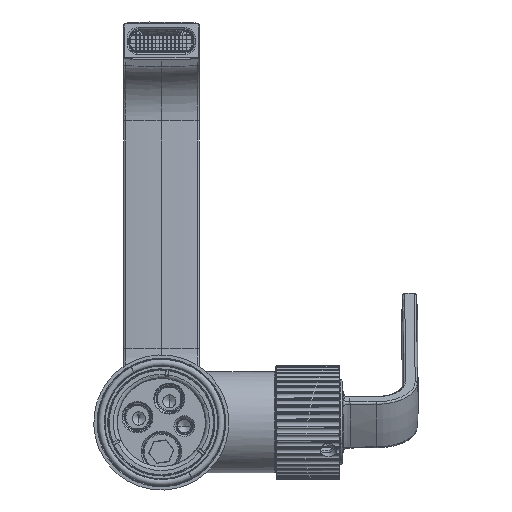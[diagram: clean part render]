
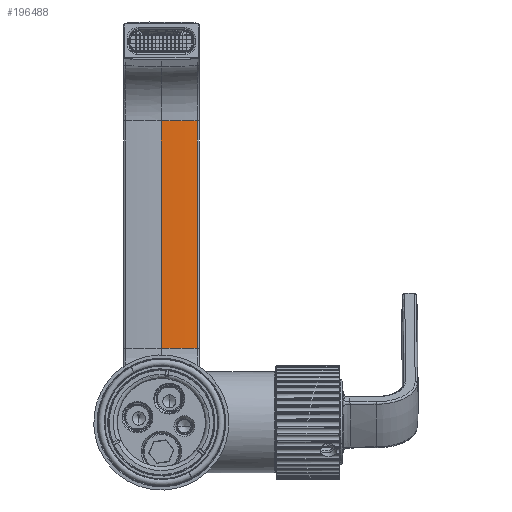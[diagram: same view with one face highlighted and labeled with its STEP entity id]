
A CAD part, front view. The second image highlights one B-rep face of the part: STEP entity #196488.
In plain terms, the highlighted cylindrical face has radius 203.312 mm (diameter 406.625 mm), a partial arc.
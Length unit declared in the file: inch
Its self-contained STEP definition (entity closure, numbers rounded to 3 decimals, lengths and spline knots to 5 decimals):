
#3077 = CIRCLE ( 'NONE', #184354, 8.00443 ) ;
#3469 = CARTESIAN_POINT ( 'NONE',  ( 0., 7.23426, 4.47863 ) ) ;
#8635 = VECTOR ( 'NONE', #57711, 39.37008 ) ;
#16181 = FACE_OUTER_BOUND ( 'NONE', #117913, .T. ) ;
#26105 = EDGE_CURVE ( 'NONE', #234464, #204196, #3077, .T. ) ;
#37908 = LINE ( 'NONE', #195086, #8635 ) ;
#40659 = CARTESIAN_POINT ( 'NONE',  ( 0.53302, 7.25203, 4.47863 ) ) ;
#55817 = DIRECTION ( 'NONE',  ( 0., -1., 0. ) ) ;
#57711 = DIRECTION ( 'NONE',  ( 0., 0., 1. ) ) ;
#71712 = EDGE_CURVE ( 'NONE', #133125, #204196, #143069, .T. ) ;
#94158 = DIRECTION ( 'NONE',  ( 0., 0., 1. ) ) ;
#107954 = CARTESIAN_POINT ( 'NONE',  ( 0.53302, 7.25203, 1.10236 ) ) ;
#117856 = DIRECTION ( 'NONE',  ( 0., 0., 1. ) ) ;
#117913 = EDGE_LOOP ( 'NONE', ( #162161, #158928, #146005, #201988 ) ) ;
#120837 = AXIS2_PLACEMENT_3D ( 'NONE', #195784, #117856, #55817 ) ;
#130477 = VERTEX_POINT ( 'NONE', #157083 ) ;
#133125 = VERTEX_POINT ( 'NONE', #107954 ) ;
#140225 = DIRECTION ( 'NONE',  ( 0., -1., 0. ) ) ;
#143069 = B_SPLINE_CURVE_WITH_KNOTS ( 'NONE', 3,
 ( #158214, #176682, #238757, #40659 ),
 .UNSPECIFIED., .F., .F.,
 ( 4, 4 ),
 ( 0., 1. ),
 .UNSPECIFIED. ) ;
#146005 = ORIENTED_EDGE ( 'NONE', *, *, #71712, .T. ) ;
#157083 = CARTESIAN_POINT ( 'NONE',  ( 0., 7.23426, 1.10236 ) ) ;
#158214 = CARTESIAN_POINT ( 'NONE',  ( 0.53302, 7.25203, 1.10236 ) ) ;
#158928 = ORIENTED_EDGE ( 'NONE', *, *, #167565, .T. ) ;
#162161 = ORIENTED_EDGE ( 'NONE', *, *, #183368, .F. ) ;
#167565 = EDGE_CURVE ( 'NONE', #130477, #133125, #170880, .T. ) ;
#170880 = CIRCLE ( 'NONE', #242562, 8.00443 ) ;
#176682 = CARTESIAN_POINT ( 'NONE',  ( 0.53302, 7.25203, 2.22779 ) ) ;
#178128 = CARTESIAN_POINT ( 'NONE',  ( 0.53302, 7.25203, 4.47863 ) ) ;
#178526 = CARTESIAN_POINT ( 'NONE',  ( 0., 15.23869, 1.10236 ) ) ;
#183368 = EDGE_CURVE ( 'NONE', #130477, #234464, #37908, .T. ) ;
#184354 = AXIS2_PLACEMENT_3D ( 'NONE', #228810, #211593, #190456 ) ;
#190456 = DIRECTION ( 'NONE',  ( 0., -1., 0. ) ) ;
#195086 = CARTESIAN_POINT ( 'NONE',  ( 0., 7.23426, 1.10236 ) ) ;
#195784 = CARTESIAN_POINT ( 'NONE',  ( 0., 15.23869, 1.10236 ) ) ;
#196488 = ADVANCED_FACE ( 'NONE', ( #16181 ), #240599, .T. ) ;
#201988 = ORIENTED_EDGE ( 'NONE', *, *, #26105, .F. ) ;
#204196 = VERTEX_POINT ( 'NONE', #178128 ) ;
#211593 = DIRECTION ( 'NONE',  ( 0., 0., 1. ) ) ;
#228810 = CARTESIAN_POINT ( 'NONE',  ( 0., 15.23869, 4.47863 ) ) ;
#234464 = VERTEX_POINT ( 'NONE', #3469 ) ;
#238757 = CARTESIAN_POINT ( 'NONE',  ( 0.53302, 7.25203, 3.35321 ) ) ;
#240599 = CYLINDRICAL_SURFACE ( 'NONE', #120837, 8.00443 ) ;
#242562 = AXIS2_PLACEMENT_3D ( 'NONE', #178526, #94158, #140225 ) ;
